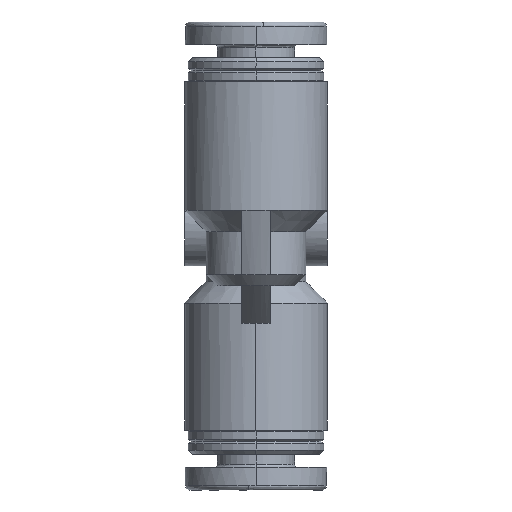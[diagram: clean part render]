
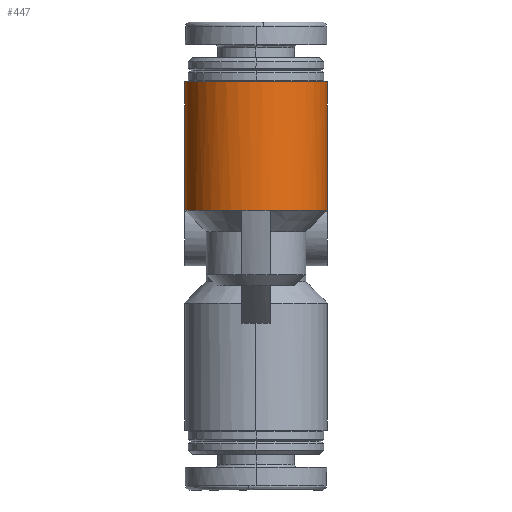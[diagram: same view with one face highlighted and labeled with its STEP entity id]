
A CAD part, left-side view. The second image highlights one B-rep face of the part: STEP entity #447.
In plain terms, the highlighted cylindrical face has radius 5 mm (diameter 10 mm), a partial arc.
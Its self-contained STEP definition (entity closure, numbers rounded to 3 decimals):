
#5 = DIRECTION ( 'NONE',  ( 0., 0., 1. ) ) ;
#70 = CARTESIAN_POINT ( 'NONE',  ( -1.863, -3.435, 2.355 ) ) ;
#108 = CARTESIAN_POINT ( 'NONE',  ( -5.5, 0., 0.9 ) ) ;
#273 = CARTESIAN_POINT ( 'NONE',  ( -1.861, 3.433, 2.357 ) ) ;
#447 = ADVANCED_FACE ( '13', ( #1049 ), #4658, .T. ) ;
#467 = ORIENTED_EDGE ( 'NONE', *, *, #3170, .T. ) ;
#472 = CARTESIAN_POINT ( 'NONE',  ( -2.808, -4.214, 1.071 ) ) ;
#473 = CIRCLE ( 'NONE', #4709, 5. ) ;
#489 = CARTESIAN_POINT ( 'NONE',  ( -1.333, -2.785, 2.694 ) ) ;
#500 = VERTEX_POINT ( 'NONE', #3035 ) ;
#524 = ORIENTED_EDGE ( 'NONE', *, *, #1543, .F. ) ;
#543 = DIRECTION ( 'NONE',  ( 0., 0., 1. ) ) ;
#651 = EDGE_LOOP ( 'NONE', ( #3561, #4245, #467, #776, #3605, #4422, #3486, #524 ) ) ;
#681 = CARTESIAN_POINT ( 'NONE',  ( -2.188, 3.749, 2.058 ) ) ;
#692 = DIRECTION ( 'NONE',  ( 0., 0., 1. ) ) ;
#744 = CARTESIAN_POINT ( 'NONE',  ( -0.73, -1.5, 2.868 ) ) ;
#776 = ORIENTED_EDGE ( 'NONE', *, *, #4097, .T. ) ;
#829 = CARTESIAN_POINT ( 'NONE',  ( -2.862, -4.247, 0.9 ) ) ;
#890 = CARTESIAN_POINT ( 'NONE',  ( -0.839, -1.845, 2.883 ) ) ;
#975 = VECTOR ( 'NONE', #5, 1000. ) ;
#1049 = FACE_OUTER_BOUND ( 'NONE', #651, .T. ) ;
#1077 = CARTESIAN_POINT ( 'NONE',  ( -2.488, 3.993, 1.684 ) ) ;
#1238 = VERTEX_POINT ( 'NONE', #2056 ) ;
#1259 = VERTEX_POINT ( 'NONE', #2368 ) ;
#1270 = AXIS2_PLACEMENT_3D ( 'NONE', #3710, #1536, #4064 ) ;
#1421 = VERTEX_POINT ( 'NONE', #3998 ) ;
#1461 = CARTESIAN_POINT ( 'NONE',  ( -2.74, 4.17, 1.234 ) ) ;
#1512 = DIRECTION ( 'NONE',  ( 0., 0., 1. ) ) ;
#1536 = DIRECTION ( 'NONE',  ( 0., 0., 1. ) ) ;
#1543 = EDGE_CURVE ( 'NONE', #1238, #1259, #2095, .T. ) ;
#1589 = CARTESIAN_POINT ( 'NONE',  ( -0.73, 1.5, 9.9 ) ) ;
#1635 = CARTESIAN_POINT ( 'NONE',  ( -2.583, -4.062, 1.536 ) ) ;
#1685 = CARTESIAN_POINT ( 'NONE',  ( -0.73, 1.5, 2.91 ) ) ;
#1752 = VERTEX_POINT ( 'NONE', #829 ) ;
#1838 = CARTESIAN_POINT ( 'NONE',  ( -2.862, 4.247, 0.9 ) ) ;
#1974 = LINE ( 'NONE', #1589, #975 ) ;
#2002 = B_SPLINE_CURVE_WITH_KNOTS ( 'NONE', 3,
 ( #2723, #472, #3813, #1635, #4169, #2014, #4506, #2380, #70, #2737, #489, #3089, #890, #3454 ),
 .UNSPECIFIED., .F., .F.,
 ( 4, 2, 2, 2, 2, 2, 4 ),
 ( 0., 0.001, 0.001, 0.002, 0.002, 0.003, 0.004 ),
 .UNSPECIFIED. ) ;
#2014 = CARTESIAN_POINT ( 'NONE',  ( -2.294, -3.839, 1.94 ) ) ;
#2032 = CIRCLE ( 'NONE', #2954, 5. ) ;
#2056 = CARTESIAN_POINT ( 'NONE',  ( -0.73, -1.5, 9.9 ) ) ;
#2095 = LINE ( 'NONE', #744, #3899 ) ;
#2147 = DIRECTION ( 'NONE',  ( 0., 0., -1. ) ) ;
#2195 = CARTESIAN_POINT ( 'NONE',  ( -0.982, 2.171, 2.841 ) ) ;
#2350 = VERTEX_POINT ( 'NONE', #2937 ) ;
#2368 = CARTESIAN_POINT ( 'NONE',  ( -0.73, -1.5, 2.91 ) ) ;
#2380 = CARTESIAN_POINT ( 'NONE',  ( -1.974, -3.548, 2.264 ) ) ;
#2385 = EDGE_CURVE ( 'NONE', #2544, #1752, #4016, .T. ) ;
#2544 = VERTEX_POINT ( 'NONE', #4787 ) ;
#2557 = CARTESIAN_POINT ( 'NONE',  ( -1.538, 3.067, 2.589 ) ) ;
#2642 = DIRECTION ( 'NONE',  ( 1., 0., 0. ) ) ;
#2660 = DIRECTION ( 'NONE',  ( 0., 0., 1. ) ) ;
#2723 = CARTESIAN_POINT ( 'NONE',  ( -2.862, -4.247, 0.9 ) ) ;
#2737 = CARTESIAN_POINT ( 'NONE',  ( -1.54, -3.07, 2.588 ) ) ;
#2788 = CARTESIAN_POINT ( 'NONE',  ( -5.5, 0., 0.9 ) ) ;
#2842 = EDGE_CURVE ( 'NONE', #1752, #1259, #2002, .T. ) ;
#2901 = CARTESIAN_POINT ( 'NONE',  ( -1.972, 3.546, 2.266 ) ) ;
#2909 = CARTESIAN_POINT ( 'NONE',  ( -5.5, 0., 0.9 ) ) ;
#2937 = CARTESIAN_POINT ( 'NONE',  ( -2.862, 4.247, 0.9 ) ) ;
#2941 = VERTEX_POINT ( 'NONE', #1685 ) ;
#2954 = AXIS2_PLACEMENT_3D ( 'NONE', #2788, #543, #3141 ) ;
#3035 = CARTESIAN_POINT ( 'NONE',  ( -10.399, 1., 0.9 ) ) ;
#3089 = CARTESIAN_POINT ( 'NONE',  ( -0.984, -2.175, 2.84 ) ) ;
#3141 = DIRECTION ( 'NONE',  ( 1., 0., 0. ) ) ;
#3170 = EDGE_CURVE ( 'NONE', #2941, #2350, #3542, .T. ) ;
#3255 = CARTESIAN_POINT ( 'NONE',  ( -0.73, 1.5, 2.91 ) ) ;
#3270 = CARTESIAN_POINT ( 'NONE',  ( -2.292, 3.838, 1.942 ) ) ;
#3279 = DIRECTION ( 'NONE',  ( 1., 0., 0. ) ) ;
#3454 = CARTESIAN_POINT ( 'NONE',  ( -0.73, -1.5, 2.91 ) ) ;
#3486 = ORIENTED_EDGE ( 'NONE', *, *, #2842, .T. ) ;
#3511 = EDGE_CURVE ( 'NONE', #2941, #1421, #1974, .T. ) ;
#3542 = B_SPLINE_CURVE_WITH_KNOTS ( 'NONE', 3,
 ( #3255, #4329, #2195, #4667, #2557, #273, #2901, #681, #3270, #1077, #3640, #1461, #3997, #1838 ),
 .UNSPECIFIED., .F., .F.,
 ( 4, 2, 2, 2, 2, 2, 4 ),
 ( 0., 0.001, 0.002, 0.003, 0.003, 0.004, 0.004 ),
 .UNSPECIFIED. ) ;
#3561 = ORIENTED_EDGE ( 'NONE', *, *, #3844, .F. ) ;
#3605 = ORIENTED_EDGE ( 'NONE', *, *, #3769, .T. ) ;
#3640 = CARTESIAN_POINT ( 'NONE',  ( -2.58, 4.06, 1.54 ) ) ;
#3683 = CARTESIAN_POINT ( 'NONE',  ( -5.5, 0., 9.9 ) ) ;
#3710 = CARTESIAN_POINT ( 'NONE',  ( -5.5, 0., 0.9 ) ) ;
#3769 = EDGE_CURVE ( 'NONE', #500, #2544, #4379, .T. ) ;
#3813 = CARTESIAN_POINT ( 'NONE',  ( -2.741, -4.171, 1.232 ) ) ;
#3844 = EDGE_CURVE ( 'NONE', #1421, #1238, #473, .T. ) ;
#3899 = VECTOR ( 'NONE', #2147, 1000. ) ;
#3947 = AXIS2_PLACEMENT_3D ( 'NONE', #108, #2660, #2642 ) ;
#3997 = CARTESIAN_POINT ( 'NONE',  ( -2.808, 4.214, 1.071 ) ) ;
#3998 = CARTESIAN_POINT ( 'NONE',  ( -0.73, 1.5, 9.9 ) ) ;
#4016 = CIRCLE ( 'NONE', #1270, 5. ) ;
#4021 = AXIS2_PLACEMENT_3D ( 'NONE', #2909, #692, #3279 ) ;
#4042 = DIRECTION ( 'NONE',  ( 1., 0., 0. ) ) ;
#4064 = DIRECTION ( 'NONE',  ( 1., 0., 0. ) ) ;
#4097 = EDGE_CURVE ( 'NONE', #2350, #500, #2032, .T. ) ;
#4169 = CARTESIAN_POINT ( 'NONE',  ( -2.491, -3.995, 1.68 ) ) ;
#4245 = ORIENTED_EDGE ( 'NONE', *, *, #3511, .F. ) ;
#4329 = CARTESIAN_POINT ( 'NONE',  ( -0.839, 1.845, 2.882 ) ) ;
#4379 = CIRCLE ( 'NONE', #4021, 5. ) ;
#4422 = ORIENTED_EDGE ( 'NONE', *, *, #2385, .T. ) ;
#4506 = CARTESIAN_POINT ( 'NONE',  ( -2.19, -3.75, 2.056 ) ) ;
#4658 = CYLINDRICAL_SURFACE ( 'NONE', #3947, 5. ) ;
#4667 = CARTESIAN_POINT ( 'NONE',  ( -1.33, 2.781, 2.696 ) ) ;
#4709 = AXIS2_PLACEMENT_3D ( 'NONE', #3683, #1512, #4042 ) ;
#4787 = CARTESIAN_POINT ( 'NONE',  ( -10.399, -1., 0.9 ) ) ;
